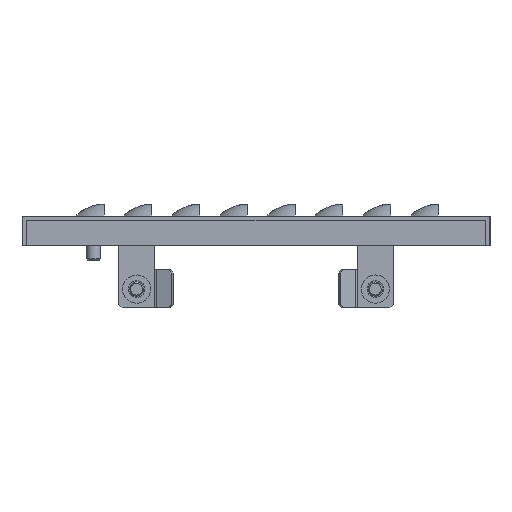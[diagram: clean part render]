
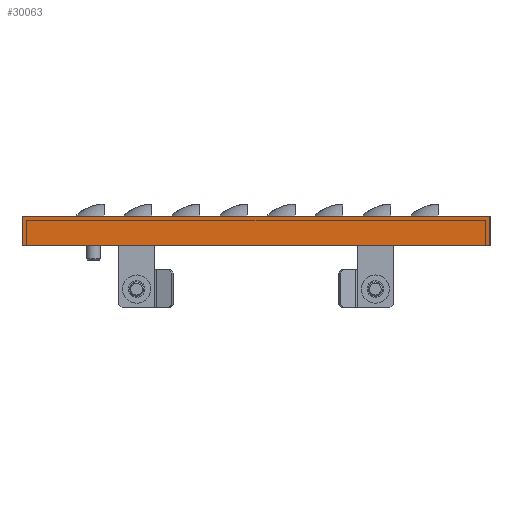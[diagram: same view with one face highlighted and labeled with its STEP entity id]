
A CAD part, left-side view. The second image highlights one B-rep face of the part: STEP entity #30063.
In plain terms, the highlighted planar face has unit normal (-1, 0, 0).
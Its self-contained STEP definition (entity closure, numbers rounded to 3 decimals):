
#892 = ORIENTED_EDGE ( 'NONE', *, *, #24594, .T. ) ;
#2338 = DIRECTION ( 'NONE',  ( 0., 0., -1. ) ) ;
#3692 = VERTEX_POINT ( 'NONE', #28655 ) ;
#6350 = ORIENTED_EDGE ( 'NONE', *, *, #8299, .T. ) ;
#6569 = DIRECTION ( 'NONE',  ( 1., 0., 0. ) ) ;
#7552 = CARTESIAN_POINT ( 'NONE',  ( -995., -98., -12.5 ) ) ;
#8146 = EDGE_LOOP ( 'NONE', ( #892, #31255, #6350, #11864 ) ) ;
#8299 = EDGE_CURVE ( 'NONE', #3692, #11374, #45131, .T. ) ;
#11374 = VERTEX_POINT ( 'NONE', #48690 ) ;
#11864 = ORIENTED_EDGE ( 'NONE', *, *, #21475, .F. ) ;
#14646 = DIRECTION ( 'NONE',  ( 0., -1., 0. ) ) ;
#15264 = VERTEX_POINT ( 'NONE', #16211 ) ;
#15428 = CARTESIAN_POINT ( 'NONE',  ( -995., 0., 0. ) ) ;
#16211 = CARTESIAN_POINT ( 'NONE',  ( -995., -196., 0. ) ) ;
#18181 = VECTOR ( 'NONE', #42850, 1000. ) ;
#19931 = LINE ( 'NONE', #35420, #28552 ) ;
#21475 = EDGE_CURVE ( 'NONE', #15264, #11374, #19931, .T. ) ;
#21566 = CARTESIAN_POINT ( 'NONE',  ( -995., -98., -2. ) ) ;
#24594 = EDGE_CURVE ( 'NONE', #15264, #47353, #38791, .T. ) ;
#25681 = CARTESIAN_POINT ( 'NONE',  ( -995., 0., 2.928 ) ) ;
#26372 = FACE_OUTER_BOUND ( 'NONE', #8146, .T. ) ;
#26865 = CARTESIAN_POINT ( 'NONE',  ( -995., -98., 0. ) ) ;
#28552 = VECTOR ( 'NONE', #43539, 1000. ) ;
#28655 = CARTESIAN_POINT ( 'NONE',  ( -995., 0., -12.5 ) ) ;
#30063 = ADVANCED_FACE ( 'NONE', ( #26372 ), #37805, .F. ) ;
#31255 = ORIENTED_EDGE ( 'NONE', *, *, #46693, .T. ) ;
#33298 = LINE ( 'NONE', #25681, #46194 ) ;
#35420 = CARTESIAN_POINT ( 'NONE',  ( -995., -196., 2.928 ) ) ;
#37805 = PLANE ( 'NONE',  #41605 ) ;
#38791 = LINE ( 'NONE', #26865, #18181 ) ;
#41605 = AXIS2_PLACEMENT_3D ( 'NONE', #21566, #6569, #49213 ) ;
#42850 = DIRECTION ( 'NONE',  ( 0., 1., 0. ) ) ;
#43539 = DIRECTION ( 'NONE',  ( 0., 0., -1. ) ) ;
#45131 = LINE ( 'NONE', #7552, #47341 ) ;
#46194 = VECTOR ( 'NONE', #2338, 1000. ) ;
#46693 = EDGE_CURVE ( 'NONE', #47353, #3692, #33298, .T. ) ;
#47341 = VECTOR ( 'NONE', #14646, 1000. ) ;
#47353 = VERTEX_POINT ( 'NONE', #15428 ) ;
#48690 = CARTESIAN_POINT ( 'NONE',  ( -995., -196., -12.5 ) ) ;
#49213 = DIRECTION ( 'NONE',  ( 0., 1., 0. ) ) ;
